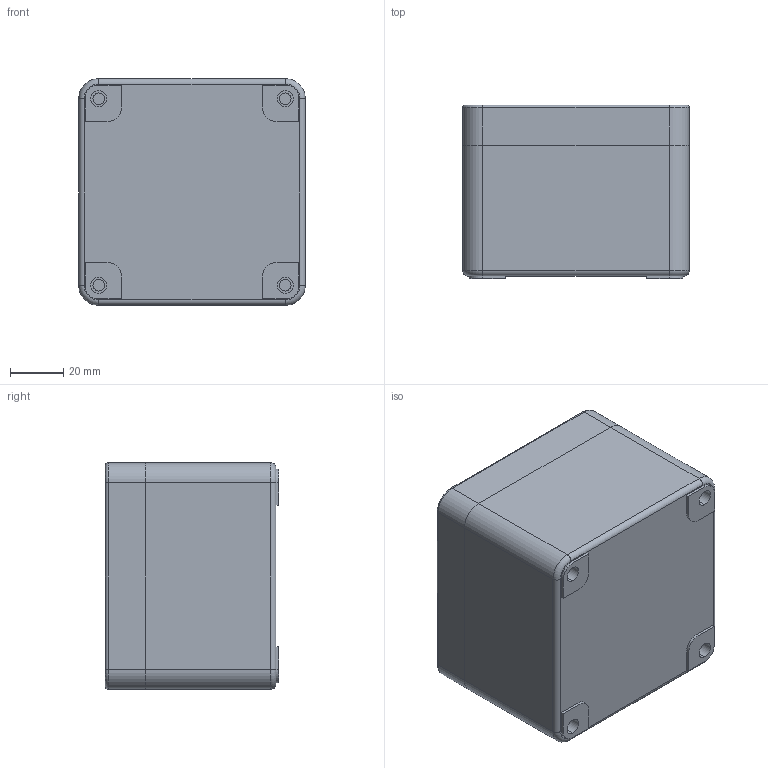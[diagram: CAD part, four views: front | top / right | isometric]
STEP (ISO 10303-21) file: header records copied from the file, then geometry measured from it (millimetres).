
FILE_DESCRIPTION (( 'STEP AP214' ), '1' );
FILE_NAME ('040C0808-6GP1.STEP', '2018-08-16T13:30:12', ( '' ), ( '' ), 'SwSTEP 2.0', 'SolidWorks 2013', '' );
FILE_SCHEMA (( 'AUTOMOTIVE_DESIGN' ));
Length unit declared in the file: millimetre
Products named in the file (1): 040C0808-6GP1
Bounding box: 85 x 65 x 85 mm (x, y, z)
Volume: 129468.7 mm3; surface area: 76045.7 mm2
Topology: 6 solids, 6 shells, 551 faces, 1345 edges, 846 vertices
Faces by surface type: plane 249, cylinder 222, torus 80
Entity records: 22179 total; most frequent: DIRECTION 2954, CARTESIAN_POINT 2791, ORIENTED_EDGE 2690, EDGE_CURVE 1345, AXIS2_PLACEMENT_3D 1073, VERTEX_POINT 846, VECTOR 808, LINE 808
